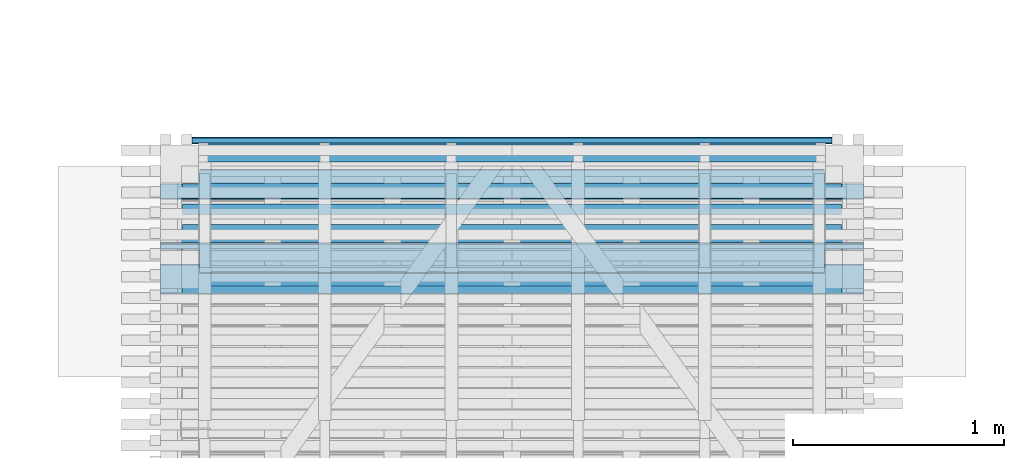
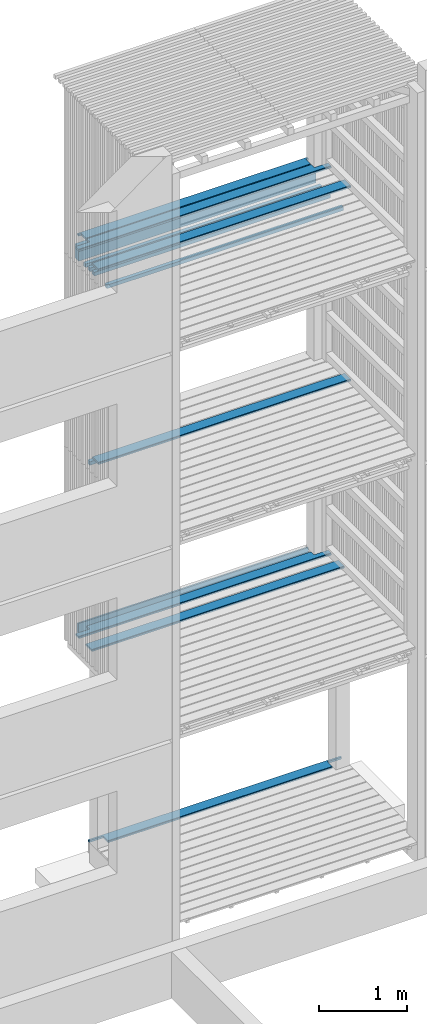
# One storey, part 101 of 182: 14 beams.
"""IFC2X3 building model written with IfcOpenShell, lengths in metres."""

from ifc_helpers import new_model, si_unit, frame, origin, place, context, project, spatial, faceted_brep, element, save


model = new_model("IFC2X3")

# Units and contexts
model_context = context("Model", 3, precision=1e-06, world=origin())
ifc_project = project(units=[si_unit("LENGTHUNIT", "METRE"), si_unit("PLANEANGLEUNIT", "RADIAN")], contexts=[model_context])

# Site, building, storey
site = spatial("IfcSite", under=ifc_project, CompositionType="ELEMENT")
building = spatial("IfcBuilding", under=site, CompositionType="ELEMENT")
storey = spatial("IfcBuildingStorey", under=building, Name="vs", CompositionType="ELEMENT", Elevation=-0.85)

# Beams
placement = place(None, origin())
beam_1_placement = place(placement, frame((46.24540135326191, 7.230077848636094, 7.93999999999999), z_axis=(0.0, 0.0, 1.0), x_axis=(-1.0, 0.0, 0.0)))
element("IfcBeam", 1, at=beam_1_placement, inside=storey, Name="Sommier", context=model_context, shape_type="Brep", body=[
    faceted_brep([(3.129999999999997, -0.039999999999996, 0.1), (3.129999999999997, 0.040000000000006, 0.1), (1e-15, 0.040000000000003, 0.1), (1e-15, -0.039999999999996, 0.1), (3.129999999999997, -0.039999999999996, -0.100000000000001), (3.129999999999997, -0.039999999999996, 0.1), (1e-15, -0.039999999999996, 0.1), (1e-15, -0.039999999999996, -0.100000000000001), (3.129999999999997, -0.039999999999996, 0.1), (3.129999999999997, -0.039999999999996, -0.100000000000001), (3.129999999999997, 0.040000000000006, -0.1), (3.129999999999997, 0.040000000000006, 0.1), (3.129999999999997, 0.040000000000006, -0.1), (3.129999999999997, -0.039999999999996, -0.100000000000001), (1e-15, -0.039999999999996, -0.100000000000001), (1e-15, 0.040000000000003, -0.100000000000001), (1e-15, 0.040000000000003, 0.1), (3.129999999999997, 0.040000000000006, 0.1), (3.129999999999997, 0.040000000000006, -0.1), (1e-15, 0.040000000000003, -0.100000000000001), (1e-15, -0.039999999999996, 0.1), (1e-15, 0.040000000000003, 0.1), (1e-15, 0.040000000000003, -0.100000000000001), (1e-15, -0.039999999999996, -0.100000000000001)], [[[0, 1, 2, 3]], [[4, 5, 6, 7]], [[8, 9, 10, 11]], [[12, 13, 14, 15]], [[16, 17, 18, 19]], [[20, 21, 22, 23]]]),
])
beam_2_placement = place(placement, frame((46.345401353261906, 6.784577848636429, 2.733499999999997), z_axis=(0.0, 0.0, 1.0), x_axis=(-1.0, -1e-14, 0.0)))
element("IfcBeam", 2, at=beam_2_placement, inside=storey, Name="Caillebotis", context=model_context, shape_type="Brep", body=[
    faceted_brep([(3.329999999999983, -0.072500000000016, -0.0135), (3.329999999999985, 0.072499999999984, -0.0135), (3.329999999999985, 0.072499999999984, 0.0085), (3.329999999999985, 0.067499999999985, 0.0135), (3.329999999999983, -0.067500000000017, 0.0135), (3.329999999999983, -0.072500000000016, 0.008500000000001), (-1.5e-14, -0.072499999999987, 0.008500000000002), (-1.5e-14, -0.067499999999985, 0.0135), (-1.4e-14, 0.067500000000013, 0.0135), (-1.4e-14, 0.072500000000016, 0.0085), (-1.4e-14, 0.072500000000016, -0.0135), (-1.5e-14, -0.072499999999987, -0.0135), (3.329999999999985, 0.072499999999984, 0.0085), (3.329999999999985, 0.072499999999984, -0.0135), (-1.4e-14, 0.072500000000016, -0.0135), (-1.4e-14, 0.072500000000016, 0.0085), (3.329999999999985, 0.067499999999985, 0.0135), (3.329999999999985, 0.072499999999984, 0.0085), (-1.4e-14, 0.072500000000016, 0.0085), (-1.4e-14, 0.067500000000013, 0.0135), (3.329999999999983, -0.067500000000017, 0.0135), (3.329999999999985, 0.067499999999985, 0.0135), (-1.4e-14, 0.067500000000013, 0.0135), (-1.5e-14, -0.067499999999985, 0.0135), (3.329999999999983, -0.072500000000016, 0.008500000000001), (3.329999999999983, -0.067500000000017, 0.0135), (-1.5e-14, -0.067499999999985, 0.0135), (-1.5e-14, -0.072499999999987, 0.008500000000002), (3.329999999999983, -0.072500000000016, -0.0135), (3.329999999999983, -0.072500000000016, 0.008500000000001), (-1.5e-14, -0.072499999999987, 0.008500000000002), (-1.5e-14, -0.072499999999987, -0.0135), (-1.4e-14, 0.072500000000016, -0.0135), (3.329999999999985, 0.072499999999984, -0.0135), (3.329999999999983, -0.072500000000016, -0.0135), (-1.5e-14, -0.072499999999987, -0.0135)], [[[0, 1, 2, 3, 4, 5]], [[6, 7, 8, 9, 10, 11]], [[12, 13, 14, 15]], [[16, 17, 18, 19]], [[20, 21, 22, 23]], [[24, 25, 26, 27]], [[28, 29, 30, 31]], [[32, 33, 34, 35]]]),
])
beam_3_placement = place(placement, frame((46.34540135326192, 7.084577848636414, 2.733499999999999), z_axis=(0.0, 0.0, 1.0), x_axis=(-1.0, 0.0, 0.0)))
element("IfcBeam", 3, at=beam_3_placement, inside=storey, Name="Caillebotis", context=model_context, shape_type="Brep", body=[
    faceted_brep([(3.144999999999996, -0.000499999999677, 0.0135), (3.144999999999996, -0.000499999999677, -0.0135), (3.329999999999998, -0.000499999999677, -0.0135), (3.329999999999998, -0.000499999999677, 0.0135), (3.329999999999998, 0.072500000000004, -0.0135), (3.329999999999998, 0.0725, 0.0085), (3.329999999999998, 0.067500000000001, 0.0135), (3.329999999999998, -0.000499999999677, 0.0135), (3.329999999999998, -0.000499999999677, -0.0135), (3.144999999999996, -0.072499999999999, 0.008500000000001), (3.144999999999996, -0.072499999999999, -0.013500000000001), (3.144999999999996, -0.000499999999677, -0.0135), (3.144999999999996, -0.000499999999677, 0.0135), (3.144999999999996, -0.0675, 0.0135), (3.144999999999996, -0.072499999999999, -0.013500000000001), (3.144999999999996, -0.072499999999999, 0.008500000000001), (0.185000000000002, -0.072499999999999, 0.008500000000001), (0.185000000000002, -0.072499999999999, -0.0135), (3.144999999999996, -0.072499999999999, 0.008500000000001), (3.144999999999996, -0.0675, 0.0135), (0.185000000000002, -0.067500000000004, 0.0135), (0.185000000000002, -0.072499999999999, 0.008500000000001), (0.185000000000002, -0.072499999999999, -0.0135), (0.185000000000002, -0.072499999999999, 0.008500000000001), (0.185000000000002, -0.067500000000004, 0.0135), (0.185000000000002, -0.000499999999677, 0.0135), (0.185000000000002, -0.000499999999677, -0.0135), (1.4e-14, -0.000499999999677, 0.0135), (0.0, 0.067500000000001, 0.0135), (0.0, 0.0725, 0.008500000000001), (0.0, 0.0725, -0.0135), (0.0, -0.000499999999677, -0.0135), (3.329999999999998, 0.0725, 0.0085), (3.329999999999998, 0.072500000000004, -0.0135), (0.0, 0.0725, -0.0135), (0.0, 0.0725, 0.008500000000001), (3.329999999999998, 0.067500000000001, 0.0135), (3.329999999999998, 0.0725, 0.0085), (0.0, 0.0725, 0.008500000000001), (0.0, 0.067500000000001, 0.0135), (3.144999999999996, -0.0675, 0.0135), (3.144999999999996, -0.000499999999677, 0.0135), (3.329999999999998, -0.000499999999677, 0.0135), (3.329999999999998, 0.067500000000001, 0.0135), (0.0, 0.067500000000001, 0.0135), (1.4e-14, -0.000499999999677, 0.0135), (0.185000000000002, -0.000499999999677, 0.0135), (0.185000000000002, -0.067500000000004, 0.0135), (0.185000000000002, -0.000499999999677, -0.0135), (0.185000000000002, -0.000499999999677, 0.0135), (1.4e-14, -0.000499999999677, 0.0135), (0.0, -0.000499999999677, -0.0135), (0.0, -0.000499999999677, -0.0135), (0.0, 0.0725, -0.0135), (3.329999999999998, 0.072500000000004, -0.0135), (3.329999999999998, -0.000499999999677, -0.0135), (3.144999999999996, -0.000499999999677, -0.0135), (3.144999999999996, -0.072499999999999, -0.013500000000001), (0.185000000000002, -0.072499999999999, -0.0135), (0.185000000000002, -0.000499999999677, -0.0135)], [[[0, 1, 2, 3]], [[4, 5, 6, 7, 8]], [[9, 10, 11, 12, 13]], [[14, 15, 16, 17]], [[18, 19, 20, 21]], [[22, 23, 24, 25, 26]], [[27, 28, 29, 30, 31]], [[32, 33, 34, 35]], [[36, 37, 38, 39]], [[40, 41, 42, 43, 44, 45, 46, 47]], [[48, 49, 50, 51]], [[52, 53, 54, 55, 56, 57, 58, 59]]]),
])
beam_4_placement = place(placement, frame((46.240401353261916, 6.965911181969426, 5.167399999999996), z_axis=(0.0, 0.0, 1.0), x_axis=(-1.0, 0.0, 0.0)))
element("IfcBeam", 4, at=beam_4_placement, inside=storey, Name="Bardage", context=model_context, shape_type="Brep", body=[
    faceted_brep([(3.120000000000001, 0.025000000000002, -0.025), (3.120000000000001, 0.025000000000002, 0.024999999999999), (3.120000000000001, -0.024999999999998, 0.024999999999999), (3.120000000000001, -0.024999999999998, -0.025), (-3e-15, -0.024999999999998, -0.025), (-3e-15, -0.024999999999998, 0.024999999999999), (-3e-15, 0.024999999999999, 0.024999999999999), (-3e-15, 0.024999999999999, -0.025), (-3e-15, 0.024999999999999, -0.025), (-3e-15, 0.024999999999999, 0.024999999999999), (3.120000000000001, 0.025000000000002, 0.024999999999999), (3.120000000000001, 0.025000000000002, -0.025), (-3e-15, 0.024999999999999, 0.024999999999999), (-3e-15, -0.024999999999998, 0.024999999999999), (3.120000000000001, -0.024999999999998, 0.024999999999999), (3.120000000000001, 0.025000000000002, 0.024999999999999), (-3e-15, -0.024999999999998, 0.024999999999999), (-3e-15, -0.024999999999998, -0.025), (3.120000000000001, -0.024999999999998, -0.025), (3.120000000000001, -0.024999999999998, 0.024999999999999), (-3e-15, -0.024999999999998, -0.025), (-3e-15, 0.024999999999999, -0.025), (3.120000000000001, 0.025000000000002, -0.025), (3.120000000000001, -0.024999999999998, -0.025)], [[[0, 1, 2, 3]], [[4, 5, 6, 7]], [[8, 9, 10, 11]], [[12, 13, 14, 15]], [[16, 17, 18, 19]], [[20, 21, 22, 23]]]),
])
beam_5_placement = place(placement, frame((46.34540135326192, 6.634577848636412, 5.433499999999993), z_axis=(0.0, 0.0, 1.0), x_axis=(-1.0, 0.0, 0.0)))
element("IfcBeam", 5, at=beam_5_placement, inside=storey, Name="Caillebotis", context=model_context, shape_type="Brep", body=[
    faceted_brep([(3.329999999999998, -0.072499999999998, -0.0135), (3.329999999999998, 0.072499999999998, -0.0135), (3.329999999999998, 0.072499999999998, 0.0085), (3.329999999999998, 0.067500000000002, 0.0135), (3.329999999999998, -0.067500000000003, 0.0135), (3.329999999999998, -0.072499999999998, 0.008500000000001), (0.0, -0.072500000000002, 0.008500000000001), (0.0, -0.067500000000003, 0.0135), (0.0, 0.067499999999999, 0.0135), (0.0, 0.072499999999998, 0.0085), (0.0, 0.072499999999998, -0.0135), (0.0, -0.072500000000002, -0.0135), (3.329999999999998, 0.072499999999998, 0.0085), (3.329999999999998, 0.072499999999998, -0.0135), (0.0, 0.072499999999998, -0.0135), (0.0, 0.072499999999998, 0.0085), (3.329999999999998, 0.067500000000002, 0.0135), (3.329999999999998, 0.072499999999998, 0.0085), (0.0, 0.072499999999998, 0.0085), (0.0, 0.067499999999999, 0.0135), (3.329999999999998, -0.067500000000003, 0.0135), (3.329999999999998, 0.067500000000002, 0.0135), (0.0, 0.067499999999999, 0.0135), (0.0, -0.067500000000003, 0.0135), (3.329999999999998, -0.072499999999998, 0.008500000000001), (3.329999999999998, -0.067500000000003, 0.0135), (0.0, -0.067500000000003, 0.0135), (0.0, -0.072500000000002, 0.008500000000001), (3.329999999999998, -0.072499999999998, -0.0135), (3.329999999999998, -0.072499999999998, 0.008500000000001), (0.0, -0.072500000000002, 0.008500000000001), (0.0, -0.072500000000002, -0.0135), (0.0, 0.072499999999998, -0.0135), (3.329999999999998, 0.072499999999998, -0.0135), (3.329999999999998, -0.072499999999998, -0.0135), (0.0, -0.072500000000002, -0.0135)], [[[0, 1, 2, 3, 4, 5]], [[6, 7, 8, 9, 10, 11]], [[12, 13, 14, 15]], [[16, 17, 18, 19]], [[20, 21, 22, 23]], [[24, 25, 26, 27]], [[28, 29, 30, 31]], [[32, 33, 34, 35]]]),
])
beam_6_placement = place(placement, frame((46.34540135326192, 6.634577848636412, 8.13349999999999), z_axis=(0.0, 0.0, 1.0), x_axis=(-1.0, 0.0, 0.0)))
element("IfcBeam", 6, at=beam_6_placement, inside=storey, Name="Caillebotis", context=model_context, shape_type="Brep", body=[
    faceted_brep([(3.329999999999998, -0.072499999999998, -0.013500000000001), (3.329999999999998, 0.072499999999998, -0.013500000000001), (3.329999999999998, 0.072499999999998, 0.008499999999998), (3.329999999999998, 0.067500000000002, 0.013499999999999), (3.329999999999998, -0.067500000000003, 0.013499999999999), (3.329999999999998, -0.072499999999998, 0.0085), (0.0, -0.072500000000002, 0.0085), (0.0, -0.067500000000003, 0.013499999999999), (0.0, 0.067499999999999, 0.013499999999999), (0.0, 0.072499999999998, 0.008499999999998), (0.0, 0.072499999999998, -0.013500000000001), (0.0, -0.072500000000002, -0.013500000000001), (3.329999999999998, 0.072499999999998, 0.008499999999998), (3.329999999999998, 0.072499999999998, -0.013500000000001), (0.0, 0.072499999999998, -0.013500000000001), (0.0, 0.072499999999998, 0.008499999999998), (3.329999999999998, 0.067500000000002, 0.013499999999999), (3.329999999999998, 0.072499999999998, 0.008499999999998), (0.0, 0.072499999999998, 0.008499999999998), (0.0, 0.067499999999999, 0.013499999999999), (3.329999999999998, -0.067500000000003, 0.013499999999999), (3.329999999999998, 0.067500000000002, 0.013499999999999), (0.0, 0.067499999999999, 0.013499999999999), (0.0, -0.067500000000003, 0.013499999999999), (3.329999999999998, -0.072499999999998, 0.0085), (3.329999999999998, -0.067500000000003, 0.013499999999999), (0.0, -0.067500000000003, 0.013499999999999), (0.0, -0.072500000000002, 0.0085), (3.329999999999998, -0.072499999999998, -0.013500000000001), (3.329999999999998, -0.072499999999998, 0.0085), (0.0, -0.072500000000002, 0.0085), (0.0, -0.072500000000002, -0.013500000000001), (0.0, 0.072499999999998, -0.013500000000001), (3.329999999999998, 0.072499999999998, -0.013500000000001), (3.329999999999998, -0.072499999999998, -0.013500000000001), (0.0, -0.072500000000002, -0.013500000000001)], [[[0, 1, 2, 3, 4, 5]], [[6, 7, 8, 9, 10, 11]], [[12, 13, 14, 15]], [[16, 17, 18, 19]], [[20, 21, 22, 23]], [[24, 25, 26, 27]], [[28, 29, 30, 31]], [[32, 33, 34, 35]]]),
])
beam_7_placement = place(placement, frame((46.240401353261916, 6.868827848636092, 7.86739999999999), z_axis=(0.0, 0.0, 1.0), x_axis=(-1.0, 0.0, 0.0)))
element("IfcBeam", 7, at=beam_7_placement, inside=storey, Name="Bardage", context=model_context, shape_type="Brep", body=[
    faceted_brep([(3.120000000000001, 0.025000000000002, -0.024999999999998), (3.120000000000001, 0.025000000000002, 0.025000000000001), (3.120000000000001, -0.024999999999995, 0.025000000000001), (3.120000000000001, -0.024999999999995, -0.024999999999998), (-3e-15, -0.024999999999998, -0.024999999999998), (-3e-15, -0.024999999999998, 0.025000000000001), (-3e-15, 0.025000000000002, 0.025000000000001), (-3e-15, 0.025000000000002, -0.024999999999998), (-3e-15, 0.025000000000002, -0.024999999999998), (-3e-15, 0.025000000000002, 0.025000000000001), (3.120000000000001, 0.025000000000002, 0.025000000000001), (3.120000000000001, 0.025000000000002, -0.024999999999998), (-3e-15, 0.025000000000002, 0.025000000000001), (-3e-15, -0.024999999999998, 0.025000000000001), (3.120000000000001, -0.024999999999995, 0.025000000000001), (3.120000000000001, 0.025000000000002, 0.025000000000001), (-3e-15, -0.024999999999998, 0.025000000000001), (-3e-15, -0.024999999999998, -0.024999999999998), (3.120000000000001, -0.024999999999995, -0.024999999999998), (3.120000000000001, -0.024999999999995, 0.025000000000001), (-3e-15, -0.024999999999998, -0.024999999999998), (-3e-15, 0.025000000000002, -0.024999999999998), (3.120000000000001, 0.025000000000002, -0.024999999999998), (3.120000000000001, -0.024999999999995, -0.024999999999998)], [[[0, 1, 2, 3]], [[4, 5, 6, 7]], [[8, 9, 10, 11]], [[12, 13, 14, 15]], [[16, 17, 18, 19]], [[20, 21, 22, 23]]]),
])
beam_8_placement = place(placement, frame((46.240401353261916, 6.965911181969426, 7.86739999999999), z_axis=(0.0, 0.0, 1.0), x_axis=(-1.0, 0.0, 0.0)))
element("IfcBeam", 8, at=beam_8_placement, inside=storey, Name="Bardage", context=model_context, shape_type="Brep", body=[
    faceted_brep([(3.120000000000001, 0.025000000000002, -0.024999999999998), (3.120000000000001, 0.025000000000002, 0.025000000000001), (3.120000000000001, -0.024999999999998, 0.025000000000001), (3.120000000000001, -0.024999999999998, -0.024999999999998), (-3e-15, -0.024999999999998, -0.024999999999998), (-3e-15, -0.024999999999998, 0.025000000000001), (-3e-15, 0.025000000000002, 0.025000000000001), (-3e-15, 0.025000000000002, -0.024999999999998), (-3e-15, 0.025000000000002, -0.024999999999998), (-3e-15, 0.025000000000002, 0.025000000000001), (3.120000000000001, 0.025000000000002, 0.025000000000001), (3.120000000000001, 0.025000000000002, -0.024999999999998), (-3e-15, 0.025000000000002, 0.025000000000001), (-3e-15, -0.024999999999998, 0.025000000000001), (3.120000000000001, -0.024999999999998, 0.025000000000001), (3.120000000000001, 0.025000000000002, 0.025000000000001), (-3e-15, -0.024999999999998, 0.025000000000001), (-3e-15, -0.024999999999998, -0.024999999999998), (3.120000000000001, -0.024999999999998, -0.024999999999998), (3.120000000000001, -0.024999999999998, 0.025000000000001), (-3e-15, -0.024999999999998, -0.024999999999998), (-3e-15, 0.025000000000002, -0.024999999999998), (3.120000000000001, 0.025000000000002, -0.024999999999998), (3.120000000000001, -0.024999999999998, -0.024999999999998)], [[[0, 1, 2, 3]], [[4, 5, 6, 7]], [[8, 9, 10, 11]], [[12, 13, 14, 15]], [[16, 17, 18, 19]], [[20, 21, 22, 23]]]),
])
beam_9_placement = place(placement, frame((46.345401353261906, 6.734577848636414, 0.033500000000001), z_axis=(0.0, 0.0, 1.0), x_axis=(-1.0, 0.0, 0.0)))
element("IfcBeam", 9, at=beam_9_placement, inside=storey, Name="Caillebotis", context=model_context, shape_type="Brep", body=[
    faceted_brep([(0.0, -0.072500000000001, -0.013500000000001), (0.0, -0.072500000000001, 0.008500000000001), (0.0, -0.067500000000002, 0.0135), (0.0, -0.040499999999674, 0.0135), (0.0, -0.040499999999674, -0.013500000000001), (3.329999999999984, -0.067500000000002, 0.0135), (3.329999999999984, -0.040499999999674, 0.0135), (3.144999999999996, -0.040499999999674, 0.0135), (3.144999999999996, 0.067500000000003, 0.0135), (0.184999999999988, 0.067499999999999, 0.0135), (0.184999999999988, -0.040499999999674, 0.0135), (0.0, -0.040499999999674, 0.0135), (0.0, -0.067500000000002, 0.0135), (0.184999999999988, -0.040499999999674, 0.0135), (0.184999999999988, 0.067499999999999, 0.0135), (0.184999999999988, 0.072499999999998, 0.0085), (0.184999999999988, 0.072499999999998, -0.013500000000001), (0.184999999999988, -0.040499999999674, -0.013500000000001), (3.329999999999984, -0.072499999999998, 0.008500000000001), (3.329999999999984, -0.072499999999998, -0.013500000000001), (3.329999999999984, -0.040499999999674, -0.013500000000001), (3.329999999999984, -0.040499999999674, 0.0135), (3.329999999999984, -0.067500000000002, 0.0135), (3.144999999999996, 0.072499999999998, 0.0085), (3.144999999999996, 0.067500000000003, 0.0135), (3.144999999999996, -0.040499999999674, 0.0135), (3.144999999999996, -0.040499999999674, -0.013500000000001), (3.144999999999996, 0.072500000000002, -0.013500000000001), (3.144999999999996, -0.040499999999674, -0.013500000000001), (3.144999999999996, -0.040499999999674, 0.0135), (3.329999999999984, -0.040499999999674, 0.0135), (3.329999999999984, -0.040499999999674, -0.013500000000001), (0.184999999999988, 0.072499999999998, -0.013500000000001), (0.184999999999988, 0.072499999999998, 0.0085), (3.144999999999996, 0.072499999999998, 0.0085), (3.144999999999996, 0.072500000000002, -0.013500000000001), (0.184999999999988, 0.072499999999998, 0.0085), (0.184999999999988, 0.067499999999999, 0.0135), (3.144999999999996, 0.067500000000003, 0.0135), (3.144999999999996, 0.072499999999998, 0.0085), (3.329999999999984, -0.072499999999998, 0.008500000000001), (3.329999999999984, -0.067500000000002, 0.0135), (0.0, -0.067500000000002, 0.0135), (0.0, -0.072500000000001, 0.008500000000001), (3.329999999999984, -0.072499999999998, -0.013500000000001), (3.329999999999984, -0.072499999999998, 0.008500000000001), (0.0, -0.072500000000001, 0.008500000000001), (0.0, -0.072500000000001, -0.013500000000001), (0.184999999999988, -0.040499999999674, -0.013500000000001), (0.184999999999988, 0.072499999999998, -0.013500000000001), (3.144999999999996, 0.072500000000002, -0.013500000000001), (3.144999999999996, -0.040499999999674, -0.013500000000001), (3.329999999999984, -0.040499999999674, -0.013500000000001), (3.329999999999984, -0.072499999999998, -0.013500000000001), (0.0, -0.072500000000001, -0.013500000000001), (0.0, -0.040499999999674, -0.013500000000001), (0.0, -0.040499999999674, 0.0135), (0.184999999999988, -0.040499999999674, 0.0135), (0.184999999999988, -0.040499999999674, -0.013500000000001), (0.0, -0.040499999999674, -0.013500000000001)], [[[0, 1, 2, 3, 4]], [[5, 6, 7, 8, 9, 10, 11, 12]], [[13, 14, 15, 16, 17]], [[18, 19, 20, 21, 22]], [[23, 24, 25, 26, 27]], [[28, 29, 30, 31]], [[32, 33, 34, 35]], [[36, 37, 38, 39]], [[40, 41, 42, 43]], [[44, 45, 46, 47]], [[48, 49, 50, 51, 52, 53, 54, 55]], [[56, 57, 58, 59]]]),
])
beam_10_placement = place(placement, frame((46.240401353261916, 7.06299451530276, 7.86739999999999), z_axis=(0.0, 0.0, 1.0), x_axis=(-1.0, -1e-15, 0.0)))
element("IfcBeam", 10, at=beam_10_placement, inside=storey, Name="Bardage", context=model_context, shape_type="Brep", body=[
    faceted_brep([(3.120000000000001, 0.024999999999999, -0.024999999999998), (3.120000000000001, 0.024999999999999, 0.025000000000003), (3.120000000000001, -0.025000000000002, 0.025000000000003), (3.120000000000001, -0.025000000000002, -0.024999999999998), (-3e-15, -0.024999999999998, -0.024999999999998), (-3e-15, -0.024999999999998, 0.025000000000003), (-3e-15, 0.025000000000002, 0.025000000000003), (-3e-15, 0.025000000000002, -0.024999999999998), (-3e-15, 0.025000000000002, -0.024999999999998), (-3e-15, 0.025000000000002, 0.025000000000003), (3.120000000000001, 0.024999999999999, 0.025000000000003), (3.120000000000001, 0.024999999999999, -0.024999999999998), (-3e-15, 0.025000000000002, 0.025000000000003), (-3e-15, -0.024999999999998, 0.025000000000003), (3.120000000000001, -0.025000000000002, 0.025000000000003), (3.120000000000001, 0.024999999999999, 0.025000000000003), (-3e-15, -0.024999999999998, 0.025000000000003), (-3e-15, -0.024999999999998, -0.024999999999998), (3.120000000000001, -0.025000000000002, -0.024999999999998), (3.120000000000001, -0.025000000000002, 0.025000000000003), (-3e-15, -0.024999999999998, -0.024999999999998), (-3e-15, 0.025000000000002, -0.024999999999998), (3.120000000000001, 0.024999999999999, -0.024999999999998), (3.120000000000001, -0.025000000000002, -0.024999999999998)], [[[0, 1, 2, 3]], [[4, 5, 6, 7]], [[8, 9, 10, 11]], [[12, 13, 14, 15]], [[16, 17, 18, 19]], [[20, 21, 22, 23]]]),
])
beam_11_placement = place(placement, frame((46.34540135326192, 7.084577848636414, 8.13349999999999), z_axis=(0.0, 0.0, 1.0), x_axis=(-1.0, 0.0, 0.0)))
element("IfcBeam", 11, at=beam_11_placement, inside=storey, Name="Caillebotis", context=model_context, shape_type="Brep", body=[
    faceted_brep([(3.144999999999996, -0.000499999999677, 0.013499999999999), (3.144999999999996, -0.000499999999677, -0.013500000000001), (3.329999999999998, -0.000499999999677, -0.013500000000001), (3.329999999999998, -0.000499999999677, 0.013499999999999), (3.329999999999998, 0.072500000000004, -0.013500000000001), (3.329999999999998, 0.072500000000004, 0.0085), (3.329999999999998, 0.067500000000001, 0.013499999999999), (3.329999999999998, -0.000499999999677, 0.013499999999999), (3.329999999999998, -0.000499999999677, -0.013500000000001), (3.144999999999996, -0.072499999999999, 0.0085), (3.144999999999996, -0.072499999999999, -0.013500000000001), (3.144999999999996, -0.000499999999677, -0.013500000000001), (3.144999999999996, -0.000499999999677, 0.013499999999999), (3.144999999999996, -0.067499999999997, 0.013499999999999), (3.144999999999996, -0.072499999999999, -0.013500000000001), (3.144999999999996, -0.072499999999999, 0.0085), (0.185000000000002, -0.072499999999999, 0.008500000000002), (0.185000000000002, -0.072499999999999, -0.013500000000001), (3.144999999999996, -0.072499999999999, 0.0085), (3.144999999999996, -0.067499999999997, 0.013499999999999), (0.185000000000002, -0.0675, 0.013499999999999), (0.185000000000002, -0.072499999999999, 0.008500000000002), (0.185000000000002, -0.072499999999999, -0.013500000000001), (0.185000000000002, -0.072499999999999, 0.008500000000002), (0.185000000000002, -0.0675, 0.013499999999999), (0.185000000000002, -0.000499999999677, 0.013499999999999), (0.185000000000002, -0.000499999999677, -0.013500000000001), (0.0, -0.000499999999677, 0.013499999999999), (0.0, 0.067500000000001, 0.013499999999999), (0.0, 0.0725, 0.0085), (0.0, 0.0725, -0.013500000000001), (0.0, -0.000499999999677, -0.013500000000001), (3.329999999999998, 0.072500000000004, 0.0085), (3.329999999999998, 0.072500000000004, -0.013500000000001), (0.0, 0.0725, -0.013500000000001), (0.0, 0.0725, 0.0085), (3.329999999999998, 0.067500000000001, 0.013499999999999), (3.329999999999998, 0.072500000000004, 0.0085), (0.0, 0.0725, 0.0085), (0.0, 0.067500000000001, 0.013499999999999), (3.144999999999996, -0.067499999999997, 0.013499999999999), (3.144999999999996, -0.000499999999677, 0.013499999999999), (3.329999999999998, -0.000499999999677, 0.013499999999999), (3.329999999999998, 0.067500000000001, 0.013499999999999), (0.0, 0.067500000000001, 0.013499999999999), (0.0, -0.000499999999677, 0.013499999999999), (0.185000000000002, -0.000499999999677, 0.013499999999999), (0.185000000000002, -0.0675, 0.013499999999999), (0.185000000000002, -0.000499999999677, -0.013500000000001), (0.185000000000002, -0.000499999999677, 0.013499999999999), (0.0, -0.000499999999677, 0.013499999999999), (0.0, -0.000499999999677, -0.013500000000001), (0.0, -0.000499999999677, -0.013500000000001), (0.0, 0.0725, -0.013500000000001), (3.329999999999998, 0.072500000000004, -0.013500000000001), (3.329999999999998, -0.000499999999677, -0.013500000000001), (3.144999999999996, -0.000499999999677, -0.013500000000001), (3.144999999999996, -0.072499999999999, -0.013500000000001), (0.185000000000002, -0.072499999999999, -0.013500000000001), (0.185000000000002, -0.000499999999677, -0.013500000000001)], [[[0, 1, 2, 3]], [[4, 5, 6, 7, 8]], [[9, 10, 11, 12, 13]], [[14, 15, 16, 17]], [[18, 19, 20, 21]], [[22, 23, 24, 25, 26]], [[27, 28, 29, 30, 31]], [[32, 33, 34, 35]], [[36, 37, 38, 39]], [[40, 41, 42, 43, 44, 45, 46, 47]], [[48, 49, 50, 51]], [[52, 53, 54, 55, 56, 57, 58, 59]]]),
])
beam_12_placement = place(placement, frame((43.16358317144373, 7.293577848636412, 2.642499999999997), z_axis=(0.0, 1.0, 0.0), x_axis=(1.0, 0.0, 0.0)))
element("IfcBeam", 12, at=beam_12_placement, inside=storey, Name="Caillebotis", context=model_context, shape_type="Brep", body=[
    faceted_brep([(-3e-15, -0.0725, -0.013500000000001), (-3e-15, 0.0725, -0.013500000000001), (3.033636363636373, 0.0725, -0.013499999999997), (3.033636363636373, -0.0725, -0.013499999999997), (-3e-15, -0.0725, 0.008500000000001), (-3e-15, -0.0725, -0.013500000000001), (3.033636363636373, -0.0725, -0.013499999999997), (3.033636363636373, -0.0725, 0.008500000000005), (-3e-15, -0.067500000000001, 0.0135), (-3e-15, -0.0725, 0.008500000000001), (3.033636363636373, -0.0725, 0.008500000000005), (3.033636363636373, -0.067500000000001, 0.013500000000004), (-3e-15, -0.0725, -0.013500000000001), (-3e-15, -0.0725, 0.008500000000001), (-3e-15, -0.067500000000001, 0.0135), (-3e-15, 0.067500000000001, 0.0135), (-3e-15, 0.0725, 0.008500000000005), (-3e-15, 0.0725, -0.013500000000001), (-3e-15, 0.067500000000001, 0.0135), (-3e-15, -0.067500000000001, 0.0135), (3.033636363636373, -0.067500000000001, 0.013500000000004), (3.033636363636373, 0.067500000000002, 0.013500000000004), (-3e-15, 0.0725, 0.008500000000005), (-3e-15, 0.067500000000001, 0.0135), (3.033636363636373, 0.067500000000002, 0.013500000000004), (3.033636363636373, 0.0725, 0.008500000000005), (3.033636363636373, 0.0725, -0.013499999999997), (-3e-15, 0.0725, -0.013500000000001), (-3e-15, 0.0725, 0.008500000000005), (3.033636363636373, 0.0725, 0.008500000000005), (3.033636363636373, -0.0725, 0.008500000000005), (3.033636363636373, -0.0725, -0.013499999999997), (3.033636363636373, 0.0725, -0.013499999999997), (3.033636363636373, 0.0725, 0.008500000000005), (3.033636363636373, 0.067500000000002, 0.013500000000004), (3.033636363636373, -0.067500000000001, 0.013500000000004)], [[[0, 1, 2, 3]], [[4, 5, 6, 7]], [[8, 9, 10, 11]], [[12, 13, 14, 15, 16, 17]], [[18, 19, 20, 21]], [[22, 23, 24, 25]], [[26, 27, 28, 29]], [[30, 31, 32, 33, 34, 35]]]),
])
beam_13_placement = place(placement, frame((46.240401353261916, 6.577577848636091, 7.86739999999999), z_axis=(0.0, 0.0, 1.0), x_axis=(-1.0, -1e-15, 0.0)))
element("IfcBeam", 13, at=beam_13_placement, inside=storey, Name="Bardage", context=model_context, shape_type="Brep", body=[
    faceted_brep([(3.119999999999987, -0.025000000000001, 0.025000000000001), (3.119999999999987, -0.025000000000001, -0.024999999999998), (3.120000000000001, 0.024999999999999, -0.024999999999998), (3.120000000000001, 0.024999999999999, 0.025000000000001), (-3e-15, -0.024999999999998, 0.025000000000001), (-3e-15, 0.025000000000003, 0.025000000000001), (-3e-15, 0.025000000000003, -0.024999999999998), (-3e-15, -0.024999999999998, -0.024999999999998), (-3e-15, 0.025000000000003, 0.025000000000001), (-3e-15, -0.024999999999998, 0.025000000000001), (3.119999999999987, -0.025000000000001, 0.025000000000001), (3.120000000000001, 0.024999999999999, 0.025000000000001), (3.120000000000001, 0.024999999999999, 0.025000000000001), (3.120000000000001, 0.024999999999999, -0.024999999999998), (-3e-15, 0.025000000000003, -0.024999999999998), (-3e-15, 0.025000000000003, 0.025000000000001), (3.119999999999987, -0.025000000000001, -0.024999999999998), (3.119999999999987, -0.025000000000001, 0.025000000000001), (-3e-15, -0.024999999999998, 0.025000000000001), (-3e-15, -0.024999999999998, -0.024999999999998), (3.120000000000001, 0.024999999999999, -0.024999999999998), (3.119999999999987, -0.025000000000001, -0.024999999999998), (-3e-15, -0.024999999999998, -0.024999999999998), (-3e-15, 0.025000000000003, -0.024999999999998)], [[[0, 1, 2, 3]], [[4, 5, 6, 7]], [[8, 9, 10, 11]], [[12, 13, 14, 15]], [[16, 17, 18, 19]], [[20, 21, 22, 23]]]),
])
beam_14_placement = place(placement, frame((46.19721953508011, 7.234577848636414, 8.13349999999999), z_axis=(0.0, 0.0, 1.0), x_axis=(-1.0, 0.0, 0.0)))
element("IfcBeam", 14, at=beam_14_placement, inside=storey, Name="Caillebotis", context=model_context, shape_type="Brep", body=[
    faceted_brep([(3.033636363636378, -0.072499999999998, -0.013500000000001), (3.033636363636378, -0.072499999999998, 0.0085), (2e-15, -0.072499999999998, 0.0085), (2e-15, -0.072499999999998, -0.013500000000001), (2.996818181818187, 0.072500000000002, 0.008499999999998), (2.996818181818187, 0.067500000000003, 0.013499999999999), (2.996818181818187, -0.040499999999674, 0.013499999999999), (2.996818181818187, -0.040499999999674, -0.013500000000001), (2.996818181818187, 0.072500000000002, -0.013500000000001), (0.036818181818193, -0.040499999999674, -0.013500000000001), (0.036818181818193, 0.072499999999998, -0.013500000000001), (2.996818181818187, 0.072500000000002, -0.013500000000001), (2.996818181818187, -0.040499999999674, -0.013500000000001), (3.033636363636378, -0.040499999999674, -0.013500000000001), (3.033636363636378, -0.072499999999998, -0.013500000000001), (2e-15, -0.072499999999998, -0.013500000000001), (2e-15, -0.040499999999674, -0.013500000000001), (3.033636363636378, -0.072499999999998, 0.0085), (3.033636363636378, -0.072499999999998, -0.013500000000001), (3.033636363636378, -0.040499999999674, -0.013500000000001), (3.033636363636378, -0.040499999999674, 0.013499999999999), (3.033636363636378, -0.067500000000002, 0.013499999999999), (3.033636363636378, -0.040499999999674, 0.013499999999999), (3.033636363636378, -0.040499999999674, -0.013500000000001), (2.996818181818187, -0.040499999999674, -0.013500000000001), (2.996818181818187, -0.040499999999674, 0.013499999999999), (2.996818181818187, 0.072500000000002, 0.008499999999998), (2.996818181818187, 0.072500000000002, -0.013500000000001), (0.036818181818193, 0.072499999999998, -0.013500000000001), (0.036818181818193, 0.072499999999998, 0.0085), (2.996818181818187, 0.067500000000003, 0.013499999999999), (2.996818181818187, 0.072500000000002, 0.008499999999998), (0.036818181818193, 0.072499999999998, 0.0085), (0.036818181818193, 0.067500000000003, 0.013499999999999), (0.036818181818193, 0.067500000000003, 0.013499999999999), (0.036818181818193, 0.072499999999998, 0.0085), (0.036818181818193, 0.072499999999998, -0.013500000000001), (0.036818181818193, -0.040499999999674, -0.013500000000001), (0.036818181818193, -0.040499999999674, 0.013499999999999), (0.036818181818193, -0.040499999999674, 0.013499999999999), (0.036818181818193, -0.040499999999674, -0.013500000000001), (2e-15, -0.040499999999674, -0.013500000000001), (2e-15, -0.040499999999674, 0.013499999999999), (3.033636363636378, -0.067500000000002, 0.013499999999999), (3.033636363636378, -0.040499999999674, 0.013499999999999), (2.996818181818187, -0.040499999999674, 0.013499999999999), (2.996818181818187, 0.067500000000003, 0.013499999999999), (0.036818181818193, 0.067500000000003, 0.013499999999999), (0.036818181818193, -0.040499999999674, 0.013499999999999), (2e-15, -0.040499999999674, 0.013499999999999), (2e-15, -0.067500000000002, 0.013499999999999), (2e-15, -0.072499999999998, 0.0085), (3.033636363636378, -0.072499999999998, 0.0085), (3.033636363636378, -0.067500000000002, 0.013499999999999), (2e-15, -0.067500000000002, 0.013499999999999), (2e-15, -0.072499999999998, -0.013500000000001), (2e-15, -0.072499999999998, 0.0085), (2e-15, -0.067500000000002, 0.013499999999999), (2e-15, -0.040499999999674, 0.013499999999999), (2e-15, -0.040499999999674, -0.013500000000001)], [[[0, 1, 2, 3]], [[4, 5, 6, 7, 8]], [[9, 10, 11, 12, 13, 14, 15, 16]], [[17, 18, 19, 20, 21]], [[22, 23, 24, 25]], [[26, 27, 28, 29]], [[30, 31, 32, 33]], [[34, 35, 36, 37, 38]], [[39, 40, 41, 42]], [[43, 44, 45, 46, 47, 48, 49, 50]], [[51, 52, 53, 54]], [[55, 56, 57, 58, 59]]]),
])

save(model, "model.ifc")
